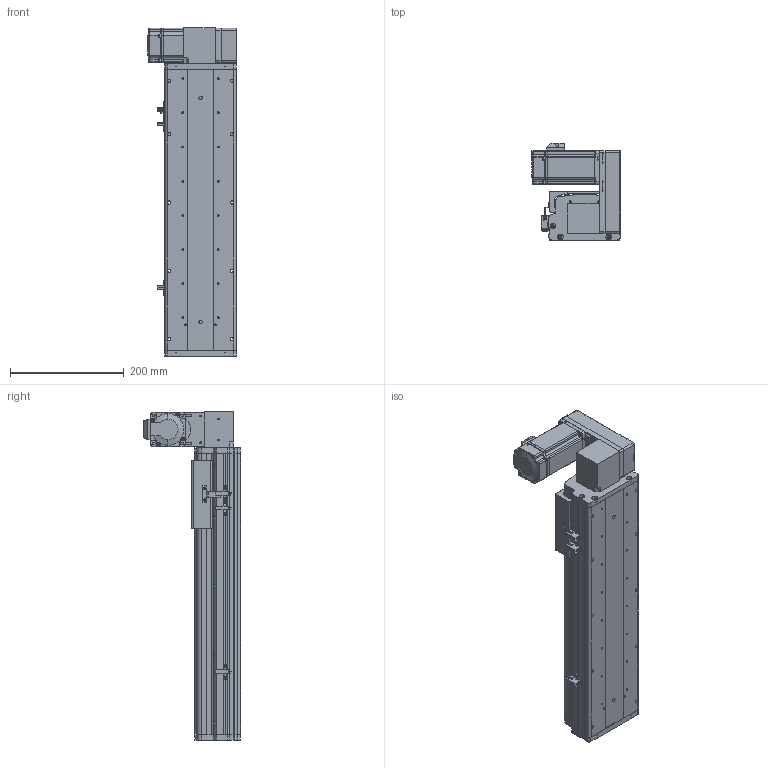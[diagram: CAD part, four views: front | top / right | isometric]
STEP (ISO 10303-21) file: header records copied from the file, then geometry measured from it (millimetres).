
FILE_DESCRIPTION (( 'STEP AP214' ), '1' );
FILE_NAME ('KSD125B-S300-MLU-CM.STEP', '2017-10-21T03:11:41', ( '微软用户' ), ( '微软中国' ), 'SwSTEP 2.0', 'SolidWorks 2014', '' );
FILE_SCHEMA (( 'AUTOMOTIVE_DESIGN' ));
Length unit declared in the file: millimetre
Products named in the file (18): 前端板-125宽模组同步带; 125模组同步带-尾端板1; KSD125模组同步带-滑动座1; KSD125B-S300-MLU-CM; MHMD042G1CA_2_03; 肣翐M4X25樓6; 悵誘欶奻狟殏; HTPA30S3M150_A_H6_a佪裝蚚; HTPA30S3M150_A_H6_a萇儂蚚; 100宽马达安装板连板上下折丝杆同步带; 100宽马达安装板同步带左; KSD125模组300行程同步带-防尘盖; 125模组300行程同步带-底板; KSD125模组同步带-防撞垫2; 覜茼え68遵圉猾敕; U倰嫖萇假蚾璃; U倰嫖萇EEㄜSX672; KSD125模组同步带-防撞垫1
Assembly tree (22 placements, depth 2):
  KSD125B-S300-MLU-CM
    KSD125模组同步带-滑动座1
    125模组同步带-尾端板1
    前端板-125宽模组同步带
    KSD125模组同步带-防撞垫1
    U倰嫖萇EEㄜSX672  x3
    U倰嫖萇假蚾璃  x3
    覜茼え68遵圉猾敕
    KSD125模组同步带-防撞垫2
    125模组300行程同步带-底板
    KSD125模组300行程同步带-防尘盖
    100宽马达安装板同步带左
    100宽马达安装板连板上下折丝杆同步带
    HTPA30S3M150_A_H6_a萇儂蚚
    HTPA30S3M150_A_H6_a佪裝蚚
    悵誘欶奻狟殏
    肣翐M4X25樓6  x2
    MHMD042G1CA_2_03
Bounding box: 155 x 170.5 x 577 mm (x, y, z)
Volume: 2058058 mm3; surface area: 734069.1 mm2
Topology: 21 solids, 24 shells, 2247 faces, 6483 edges, 4280 vertices
Faces by surface type: cylinder 1380, plane 736, cone 109, bspline 22
Entity records: 78899 total; most frequent: CARTESIAN_POINT 15595, DIRECTION 12274, ORIENTED_EDGE 11414, EDGE_CURVE 5785, AXIS2_PLACEMENT_3D 4726, VERTEX_POINT 3851, LINE 2822, VECTOR 2822
